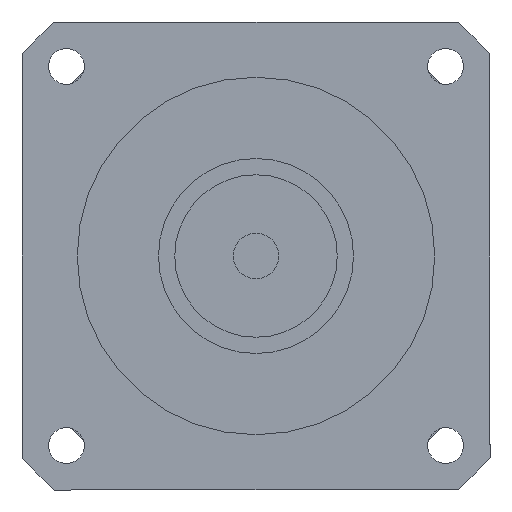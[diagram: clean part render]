
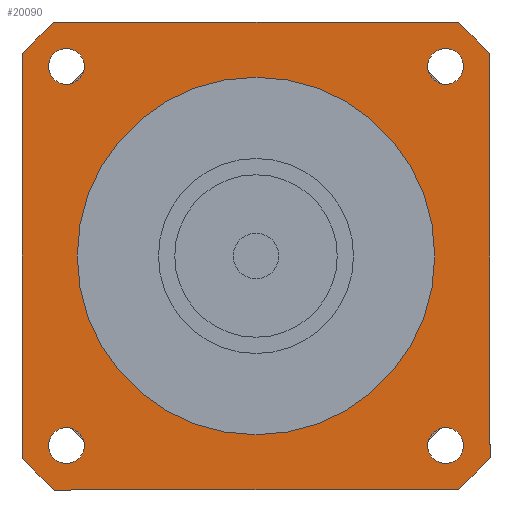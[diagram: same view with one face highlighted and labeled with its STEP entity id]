
A CAD part, left-side view. The second image highlights one B-rep face of the part: STEP entity #20090.
In plain terms, the highlighted planar face has unit normal (-1, 0, 0) as drawn and (0, 0, -1) by its records, which use the part's own axes.
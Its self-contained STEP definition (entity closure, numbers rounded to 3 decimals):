
#16050=CARTESIAN_POINT('',(61.976,-72.,-103.));
#16060=VERTEX_POINT('',#16050);
#16240=CARTESIAN_POINT('',(72.,-61.976,-103.));
#16250=VERTEX_POINT('',#16240);
#16280=CARTESIAN_POINT('',(0.,0.,
-103.));
#16290=DIRECTION('',(0.,0.,1.));
#16300=DIRECTION('',(1.,0.,0.));
#16310=AXIS2_PLACEMENT_3D('',#16280,#16290,#16300);
#16320=CIRCLE('',#16310,95.);
#16330=EDGE_CURVE('',#16060,#16250,#16320,.T.);
#16560=CARTESIAN_POINT('',(72.,61.976,-103.));
#16570=VERTEX_POINT('',#16560);
#16600=CARTESIAN_POINT('',(72.,-71.,-103.));
#16610=DIRECTION('',(0.,1.,0.));
#16620=VECTOR('',#16610,1000.);
#16630=LINE('',#16600,#16620);
#16640=EDGE_CURVE('',#16250,#16570,#16630,.T.);
#18460=CARTESIAN_POINT('',(-52.836,-58.336,-103.));
#18470=VERTEX_POINT('',#18460);
#18550=CARTESIAN_POINT('',(-63.836,-58.336,-103.));
#18560=VERTEX_POINT('',#18550);
#18590=CARTESIAN_POINT('',(-58.336,-58.336,-103.));
#18600=DIRECTION('',(0.,0.,-1.));
#18610=DIRECTION('',(0.,-1.,0.));
#18620=AXIS2_PLACEMENT_3D('',#18590,#18600,#18610);
#18630=CIRCLE('',#18620,5.5);
#18640=CARTESIAN_POINT('',(-58.336,-63.836,-103.));
#18650=VERTEX_POINT('',#18640);
#18660=EDGE_CURVE('',#18650,#18560,#18630,.T.);
#18680=EDGE_CURVE('',#18470,#18650,#18630,.T.);
#18730=CARTESIAN_POINT('',(-71.,71.,-103.));
#18740=DIRECTION('',(0.,0.,1.));
#18750=DIRECTION('',(-1.,0.,0.));
#18760=AXIS2_PLACEMENT_3D('',#18730,#18740,#18750);
#18770=PLANE('',#18760);
#18780=CARTESIAN_POINT('',(58.336,58.336,-103.));
#18790=DIRECTION('',(0.,0.,-1.));
#18800=DIRECTION('',(0.,1.,0.));
#18810=AXIS2_PLACEMENT_3D('',#18780,#18790,#18800);
#18820=CIRCLE('',#18810,5.5);
#18830=CARTESIAN_POINT('',(58.336,63.836,-103.));
#18840=VERTEX_POINT('',#18830);
#18850=CARTESIAN_POINT('',(63.836,58.336,-103.));
#18860=VERTEX_POINT('',#18850);
#18870=EDGE_CURVE('',#18840,#18860,#18820,.T.);
#18880=ORIENTED_EDGE('',*,*,#18870,.F.);
#18890=CARTESIAN_POINT('',(52.836,58.336,-103.));
#18900=VERTEX_POINT('',#18890);
#18910=EDGE_CURVE('',#18860,#18900,#18820,.T.);
#18920=ORIENTED_EDGE('',*,*,#18910,.F.);
#18930=EDGE_CURVE('',#18900,#18840,#18820,.T.);
#18940=ORIENTED_EDGE('',*,*,#18930,.F.);
#18950=EDGE_LOOP('',(#18940,#18920,#18880));
#18960=FACE_BOUND('',#18950,.T.);
#18970=CARTESIAN_POINT('',(-58.336,58.336,-103.));
#18980=DIRECTION('',(0.,0.,-1.));
#18990=DIRECTION('',(-1.,0.,0.));
#19000=AXIS2_PLACEMENT_3D('',#18970,#18980,#18990);
#19010=CIRCLE('',#19000,5.5);
#19020=CARTESIAN_POINT('',(-63.836,58.336,-103.));
#19030=VERTEX_POINT('',#19020);
#19040=CARTESIAN_POINT('',(-58.336,63.836,-103.));
#19050=VERTEX_POINT('',#19040);
#19060=EDGE_CURVE('',#19030,#19050,#19010,.T.);
#19070=ORIENTED_EDGE('',*,*,#19060,.F.);
#19080=CARTESIAN_POINT('',(-58.336,52.836,-103.));
#19090=VERTEX_POINT('',#19080);
#19100=EDGE_CURVE('',#19050,#19090,#19010,.T.);
#19110=ORIENTED_EDGE('',*,*,#19100,.F.);
#19120=EDGE_CURVE('',#19090,#19030,#19010,.T.);
#19130=ORIENTED_EDGE('',*,*,#19120,.F.);
#19140=EDGE_LOOP('',(#19130,#19110,#19070));
#19150=FACE_BOUND('',#19140,.T.);
#19160=ORIENTED_EDGE('',*,*,#18660,.F.);
#19170=EDGE_CURVE('',#18560,#18470,#18630,.T.);
#19180=ORIENTED_EDGE('',*,*,#19170,.F.);
#19190=ORIENTED_EDGE('',*,*,#18680,.F.);
#19200=EDGE_LOOP('',(#19190,#19180,#19160));
#19210=FACE_BOUND('',#19200,.T.);
#19220=CARTESIAN_POINT('',(0.,0.,
-103.));
#19230=DIRECTION('',(0.,0.,1.));
#19240=DIRECTION('',(1.,0.,0.));
#19250=AXIS2_PLACEMENT_3D('',#19220,#19230,#19240);
#19260=CIRCLE('',#19250,55.);
#19270=CARTESIAN_POINT('',(55.,0.,-103.));
#19280=VERTEX_POINT('',#19270);
#19290=CARTESIAN_POINT('',(-55.,0.,-103.));
#19300=VERTEX_POINT('',#19290);
#19310=EDGE_CURVE('',#19280,#19300,#19260,.T.);
#19320=ORIENTED_EDGE('',*,*,#19310,.T.);
#19330=EDGE_CURVE('',#19300,#19280,#19260,.T.);
#19340=ORIENTED_EDGE('',*,*,#19330,.T.);
#19350=EDGE_LOOP('',(#19340,#19320));
#19360=FACE_BOUND('',#19350,.T.);
#19370=CARTESIAN_POINT('',(58.336,-58.336,-103.));
#19380=DIRECTION('',(0.,0.,-1.));
#19390=DIRECTION('',(1.,0.,0.));
#19400=AXIS2_PLACEMENT_3D('',#19370,#19380,#19390);
#19410=CIRCLE('',#19400,5.5);
#19420=CARTESIAN_POINT('',(63.836,-58.336,-103.));
#19430=VERTEX_POINT('',#19420);
#19440=CARTESIAN_POINT('',(58.336,-63.836,-103.));
#19450=VERTEX_POINT('',#19440);
#19460=EDGE_CURVE('',#19430,#19450,#19410,.T.);
#19470=ORIENTED_EDGE('',*,*,#19460,.F.);
#19480=CARTESIAN_POINT('',(58.336,-52.836,-103.));
#19490=VERTEX_POINT('',#19480);
#19500=EDGE_CURVE('',#19450,#19490,#19410,.T.);
#19510=ORIENTED_EDGE('',*,*,#19500,.F.);
#19520=EDGE_CURVE('',#19490,#19430,#19410,.T.);
#19530=ORIENTED_EDGE('',*,*,#19520,.F.);
#19540=EDGE_LOOP('',(#19530,#19510,#19470));
#19550=FACE_BOUND('',#19540,.T.);
#19560=CARTESIAN_POINT('',(0.,0.,
-103.));
#19570=DIRECTION('',(0.,0.,1.));
#19580=DIRECTION('',(1.,0.,0.));
#19590=AXIS2_PLACEMENT_3D('',#19560,#19570,#19580);
#19600=CIRCLE('',#19590,95.);
#19610=CARTESIAN_POINT('',(-72.,-61.976,-103.));
#19620=VERTEX_POINT('',#19610);
#19630=CARTESIAN_POINT('',(-61.976,-72.,-103.));
#19640=VERTEX_POINT('',#19630);
#19650=EDGE_CURVE('',#19620,#19640,#19600,.T.);
#19660=ORIENTED_EDGE('',*,*,#19650,.F.);
#19670=CARTESIAN_POINT('',(-71.,-72.,-103.));
#19680=DIRECTION('',(1.,0.,0.));
#19690=VECTOR('',#19680,1000.);
#19700=LINE('',#19670,#19690);
#19710=EDGE_CURVE('',#19640,#16060,#19700,.T.);
#19720=ORIENTED_EDGE('',*,*,#19710,.F.);
#19730=ORIENTED_EDGE('',*,*,#16330,.F.);
#19740=ORIENTED_EDGE('',*,*,#16640,.F.);
#19750=CARTESIAN_POINT('',(0.,0.,
-103.));
#19760=DIRECTION('',(0.,0.,1.));
#19770=DIRECTION('',(1.,0.,0.));
#19780=AXIS2_PLACEMENT_3D('',#19750,#19760,#19770);
#19790=CIRCLE('',#19780,95.);
#19800=CARTESIAN_POINT('',(61.976,72.,-103.));
#19810=VERTEX_POINT('',#19800);
#19820=EDGE_CURVE('',#16570,#19810,#19790,.T.);
#19830=ORIENTED_EDGE('',*,*,#19820,.F.);
#19840=CARTESIAN_POINT('',(71.,72.,-103.));
#19850=DIRECTION('',(-1.,0.,0.));
#19860=VECTOR('',#19850,1000.);
#19870=LINE('',#19840,#19860);
#19880=CARTESIAN_POINT('',(-61.976,72.,-103.));
#19890=VERTEX_POINT('',#19880);
#19900=EDGE_CURVE('',#19810,#19890,#19870,.T.);
#19910=ORIENTED_EDGE('',*,*,#19900,.F.);
#19920=CARTESIAN_POINT('',(0.,0.,
-103.));
#19930=DIRECTION('',(0.,0.,1.));
#19940=DIRECTION('',(1.,0.,0.));
#19950=AXIS2_PLACEMENT_3D('',#19920,#19930,#19940);
#19960=CIRCLE('',#19950,95.);
#19970=CARTESIAN_POINT('',(-72.,61.976,-103.));
#19980=VERTEX_POINT('',#19970);
#19990=EDGE_CURVE('',#19890,#19980,#19960,.T.);
#20000=ORIENTED_EDGE('',*,*,#19990,.F.);
#20010=CARTESIAN_POINT('',(-72.,71.,-103.));
#20020=DIRECTION('',(0.,-1.,0.));
#20030=VECTOR('',#20020,1000.);
#20040=LINE('',#20010,#20030);
#20050=EDGE_CURVE('',#19980,#19620,#20040,.T.);
#20060=ORIENTED_EDGE('',*,*,#20050,.F.);
#20070=EDGE_LOOP('',(#20060,#20000,#19910,#19830,#19740,#19730,#19720,
#19660));
#20080=FACE_OUTER_BOUND('',#20070,.T.);
#20090=ADVANCED_FACE('',(#18960,#19150,#19210,#19360,#19550,#20080),
#18770,.F.);
